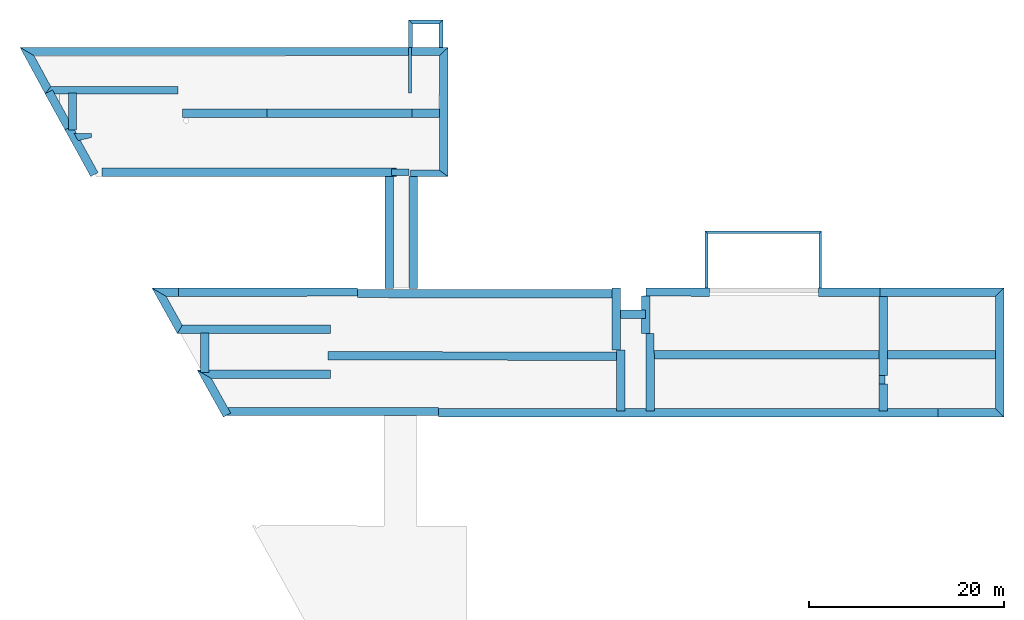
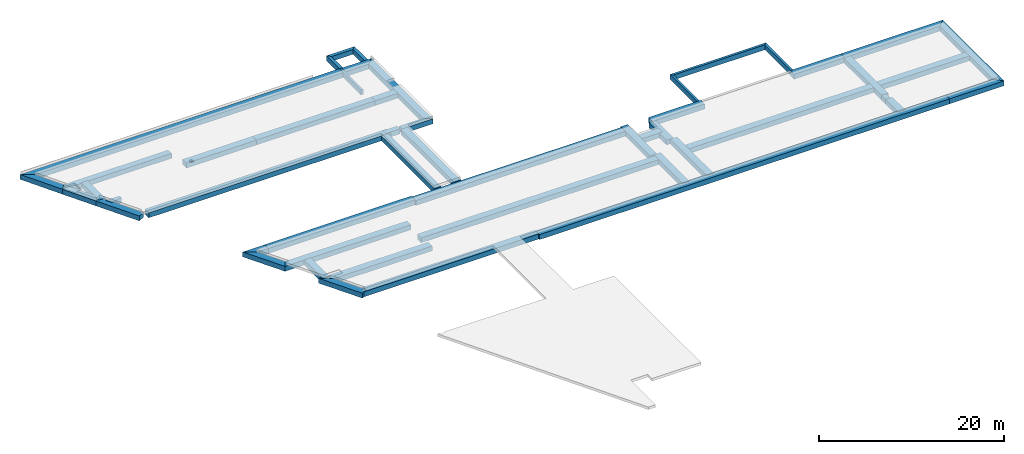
# One storey, part 1 of 3: 35 walls, 14 members, 7 openings.
"""IFC2X3 building model written with IfcOpenShell, lengths in millimetres."""

import ifcopenshell
import ifcopenshell.guid

model = None  # the IFC model being written
_history = None  # IfcOwnerHistory: only IFC2X3 demands one
_inside = {}  # id of a spatial element -> (the spatial element, [elements in it])
_under = {}  # id of a project, library or spatial element -> (it, [spatial elements below it])
_declared = {}  # id of a project -> (the project, [libraries it declares])
_typed = {}  # id of a type object -> (the type object, [elements of that type])
_made_of = {}  # id of a material, layer set ... -> (it, [elements and type objects made of it])


def new_model(schema):
    """Start an empty IFC model of exactly this schema.

    Asked for "IFC4X3", IfcOpenShell would pick the latest addendum, in which some entities
    have other attributes; the version numbers below select the first issue.
    IFC2X3 requires an IfcOwnerHistory on every rooted entity: one is made here for all.
    """
    global model, _history
    if schema == "IFC4X3":
        model = ifcopenshell.file(schema_version=(4, 3, 0, 0))
    else:
        model = ifcopenshell.file(schema=schema)
    _inside.clear()
    _under.clear()
    _declared.clear()
    _typed.clear()
    _made_of.clear()
    _history = None
    if model.schema == "IFC2X3":
        org = make("IfcOrganization", Name="unknown")
        user = make(
            "IfcPersonAndOrganization",
            ThePerson=make("IfcPerson", FamilyName="unknown"),
            TheOrganization=org,
        )
        app = make(
            "IfcApplication",
            ApplicationDeveloper=org,
            Version="unknown",
            ApplicationFullName="unknown",
            ApplicationIdentifier="unknown",
        )
        _history = make(
            "IfcOwnerHistory",
            OwningUser=user,
            OwningApplication=app,
            ChangeAction="ADDED",
            CreationDate=0,
        )
    return model


def make(cls, **values):
    """One entity of the class cls with the attributes given. An attribute that is None is left unset."""
    return model.create_entity(
        cls, **{name: value for name, value in values.items() if value is not None}
    )


def entity(cls, *values):
    """Any entity or typed value of the class cls, its attributes in the order of the schema. None: left unset."""
    e = model.create_entity(cls)
    for i, value in enumerate(values):
        if value is not None:
            e[i] = value
    return e


def rooted(cls, **values):
    """An entity with a GlobalId (a new one), such as an element, a storey or a relation."""
    return make(cls, GlobalId=ifcopenshell.guid.new(), OwnerHistory=_history, **values)


def si_unit(unit_type, name, prefix=None):
    """IfcSIUnit, for example si_unit("LENGTHUNIT", "METRE", prefix="MILLI")."""
    return make("IfcSIUnit", UnitType=unit_type, Prefix=prefix, Name=name)


def converted_unit(unit_type, name, factor, base, dimensions=None, offset=None):
    """IfcConversionBasedUnit, such as the inch: factor (a typed value) times the base unit."""
    return make(
        "IfcConversionBasedUnit"
        if offset is None
        else "IfcConversionBasedUnitWithOffset",
        ConversionOffset=offset,
        Dimensions=None
        if dimensions is None
        else entity("IfcDimensionalExponents", *dimensions),
        UnitType=unit_type,
        Name=name,
        ConversionFactor=make(
            "IfcMeasureWithUnit", ValueComponent=factor, UnitComponent=base
        ),
    )


def derived_unit(unit_type, elements):
    """IfcDerivedUnit: a product of units, each with its exponent."""
    return make(
        "IfcDerivedUnit",
        Elements=[
            make("IfcDerivedUnitElement", Unit=unit, Exponent=power)
            for unit, power in elements
        ],
        UnitType=unit_type,
    )


def money_unit(currency):
    """IfcMonetaryUnit."""
    return make("IfcMonetaryUnit", Currency=currency)


def assignment(units):
    """IfcUnitAssignment: the units of a project."""
    return None if units is None else make("IfcUnitAssignment", Units=units)


def point(xyz):
    """IfcCartesianPoint."""
    return None if xyz is None else make("IfcCartesianPoint", Coordinates=xyz)


def direction(xyz):
    """IfcDirection."""
    return None if xyz is None else make("IfcDirection", DirectionRatios=xyz)


def frame(location, z_axis=None, x_axis=None):
    """IfcAxis2Placement3D, a coordinate frame: its origin and axes. An axis left out is left unset."""
    return make(
        "IfcAxis2Placement3D",
        Location=point(location),
        Axis=direction(z_axis),
        RefDirection=direction(x_axis),
    )


def origin_with_axes():
    """The frame at (0, 0, 0) with the z axis (0, 0, 1) and the x axis (1, 0, 0) written out."""
    return frame((0.0, 0.0, 0.0), z_axis=(0.0, 0.0, 1.0), x_axis=(1.0, 0.0, 0.0))


def place(relative_to, where):
    """IfcLocalPlacement: puts the frame where relative to a parent placement (None: the world)."""
    return make(
        "IfcLocalPlacement", PlacementRelTo=relative_to, RelativePlacement=where
    )


def context(
    kind, dimensions, precision=None, world=None, true_north=None, identifier=None
):
    """IfcGeometricRepresentationContext, for example the 3D "Model" context."""
    return make(
        "IfcGeometricRepresentationContext",
        ContextIdentifier=identifier,
        ContextType=kind,
        CoordinateSpaceDimension=dimensions,
        Precision=precision,
        WorldCoordinateSystem=world,
        TrueNorth=true_north,
    )


def subcontext(parent, identifier, kind, view, scale=None):
    """IfcGeometricRepresentationSubContext, for example "Body" below "Model"."""
    return make(
        "IfcGeometricRepresentationSubContext",
        ContextIdentifier=identifier,
        ContextType=kind,
        ParentContext=parent,
        TargetScale=scale,
        TargetView=view,
    )


def project(units=None, contexts=None):
    """IfcProject with its units and contexts."""
    return rooted(
        "IfcProject",
        Name="project",
        RepresentationContexts=contexts,
        UnitsInContext=assignment(units),
    )


def spatial(cls, under=None, at=None, **own):
    """A site, building, storey or space (cls), placed at a placement, below another one or the project."""
    s = rooted(cls, ObjectPlacement=at, **own)
    if under is not None:
        _under.setdefault(under.id(), (under, []))[1].append(s)
    return s


def polyline(points):
    """IfcPolyline through the points."""
    return make("IfcPolyline", Points=[point(p) for p in points])


def outline(outer, holes=None, kind="AREA"):
    """IfcArbitraryClosedProfileDef: a profile drawn as a closed curve; with holes, ...WithVoids."""
    if holes is None:
        return make("IfcArbitraryClosedProfileDef", ProfileType=kind, OuterCurve=outer)
    return make(
        "IfcArbitraryProfileDefWithVoids",
        ProfileType=kind,
        OuterCurve=outer,
        InnerCurves=holes,
    )


def extrude(swept, where, along, depth):
    """IfcExtrudedAreaSolid: the profile swept, set in the frame where, extruded along a direction by depth."""
    return make(
        "IfcExtrudedAreaSolid",
        SweptArea=swept,
        Position=where,
        ExtrudedDirection=direction(along),
        Depth=depth,
    )


def shape(context_of_items, identifier, shape_type, items):
    """IfcShapeRepresentation: the items that make up one representation, for example the "Body"."""
    return make(
        "IfcShapeRepresentation",
        ContextOfItems=context_of_items,
        RepresentationIdentifier=identifier,
        RepresentationType=shape_type,
        Items=items,
    )


def material(Name=None, Category=None):
    """IfcMaterial."""
    return make("IfcMaterial", Name=Name, Category=Category)


def layer(
    of_material, thickness, ventilated=None, Name=None, Category=None, Priority=None
):
    """IfcMaterialLayer: one layer of a wall or slab, of a material (None: an air gap)."""
    return make(
        "IfcMaterialLayer",
        Material=of_material,
        LayerThickness=thickness,
        IsVentilated=ventilated,
        Name=Name,
        Category=Category,
        Priority=Priority,
    )


def layer_set(layers, Name=None):
    """IfcMaterialLayerSet."""
    return make("IfcMaterialLayerSet", MaterialLayers=layers, LayerSetName=Name)


def layer_usage(for_layer_set, set_direction, sense, offset, extent=None):
    """IfcMaterialLayerSetUsage: how a layer set lies in its element."""
    return make(
        "IfcMaterialLayerSetUsage",
        ForLayerSet=for_layer_set,
        LayerSetDirection=set_direction,
        DirectionSense=sense,
        OffsetFromReferenceLine=offset,
        ReferenceExtent=extent,
    )


def made_of(thing, what):
    """Note that an element or type object is made of a material, layer set ...; save() writes the relation."""
    if what is not None:
        _made_of.setdefault(what.id(), (what, []))[1].append(thing)
    return thing


def type_object(cls, material=None, **own):
    """A type object (cls), such as IfcWallType, which elements share."""
    return made_of(rooted(cls, **own), material)


def element(
    cls,
    number,
    at=None,
    inside=None,
    cuts=None,
    type_object=None,
    material=None,
    context=None,
    identifier="Body",
    shape_type=None,
    held_by="IfcProductDefinitionShape",
    body=None,
    shapes=None,
    **own,
):
    """One element of the class cls, such as IfcWall. Its Tag is "e" and its number.

    at: its placement. inside: the storey or other place that contains it. cuts: it is an
    opening in that element (IfcRelVoidsElement). A single representation is given by context,
    identifier, shape_type and body (its items); several are given by shapes. held_by: the class
    of the entity that holds the representations. save() writes the other relations.
    """
    e = rooted(cls, Tag="e%d" % number, ObjectPlacement=at, **own)
    if body is not None:
        shapes = [shape(context, identifier, shape_type, body)]
    if shapes is not None:
        e.Representation = make(held_by, Representations=shapes)
    if inside is not None:
        _inside.setdefault(inside.id(), (inside, []))[1].append(e)
    if cuts is not None:
        rooted(
            "IfcRelVoidsElement", RelatingBuildingElement=cuts, RelatedOpeningElement=e
        )
    if type_object is not None:
        _typed.setdefault(type_object.id(), (type_object, []))[1].append(e)
    return made_of(e, material)


def aggregate(whole, parts):
    """IfcRelAggregates: a whole, such as a stair, and the parts it consists of."""
    return rooted("IfcRelAggregates", RelatingObject=whole, RelatedObjects=parts)


def save(model, path):
    """Write the relations noted so far, then the file.

    IfcRelAggregates (storeys below a building ...), IfcRelContainedInSpatialStructure (elements
    in a storey), IfcRelDefinesByType, IfcRelAssociatesMaterial and IfcRelDeclares: one each for
    every whole, place, type object, material and project.
    """
    for whole, parts in _under.values():
        aggregate(whole, parts)
    for where, things in _inside.values():
        rooted(
            "IfcRelContainedInSpatialStructure",
            RelatedElements=things,
            RelatingStructure=where,
        )
    for kind, things in _typed.values():
        rooted("IfcRelDefinesByType", RelatedObjects=things, RelatingType=kind)
    for what, things in _made_of.values():
        rooted("IfcRelAssociatesMaterial", RelatedObjects=things, RelatingMaterial=what)
    for by, libraries in _declared.values():
        rooted("IfcRelDeclares", RelatingContext=by, RelatedDefinitions=libraries)
    model.write(path)


model = new_model("IFC2X3")

# Units and contexts
model_context = context("Model", 3, precision=1e-05, world=origin_with_axes(), true_north=direction((0.0, 1.0)))
body_context = subcontext(model_context, "Body", "Model", "MODEL_VIEW")
ifc_project = project(units=[si_unit("LENGTHUNIT", "METRE", prefix="MILLI"), si_unit("AREAUNIT", "SQUARE_METRE"), si_unit("VOLUMEUNIT", "CUBIC_METRE"), converted_unit("PLANEANGLEUNIT", "DEGREE", entity("IfcPlaneAngleMeasure", 0.0174532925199), si_unit("PLANEANGLEUNIT", "RADIAN"), dimensions=[0, 0, 0, 0, 0, 0, 0]), si_unit("SOLIDANGLEUNIT", "STERADIAN"), money_unit("EUR"), converted_unit("TIMEUNIT", "Year", entity("IfcTimeMeasure", 31556926.0), si_unit("TIMEUNIT", "SECOND"), dimensions=[0, 0, 1, 0, 0, 0, 0]), si_unit("MASSUNIT", "GRAM", prefix="KILO"), si_unit("THERMODYNAMICTEMPERATUREUNIT", "DEGREE_CELSIUS"), si_unit("LUMINOUSINTENSITYUNIT", "LUMEN"), si_unit("ENERGYUNIT", "JOULE", prefix="MEGA"), derived_unit("THERMALCONDUCTANCEUNIT", [(si_unit("POWERUNIT", "WATT"), 1), (si_unit("LENGTHUNIT", "METRE"), -1), (si_unit("THERMODYNAMICTEMPERATUREUNIT", "KELVIN"), -1)]), derived_unit("SPECIFICHEATCAPACITYUNIT", [(si_unit("ENERGYUNIT", "JOULE"), 1), (si_unit("MASSUNIT", "GRAM", prefix="KILO"), -1), (si_unit("THERMODYNAMICTEMPERATUREUNIT", "KELVIN"), -1)]), derived_unit("MASSDENSITYUNIT", [(si_unit("MASSUNIT", "GRAM", prefix="KILO"), 1), (si_unit("VOLUMEUNIT", "CUBIC_METRE"), -1)])], contexts=[model_context])

# Site, building, storey
site_placement = place(None, origin_with_axes())
site = spatial("IfcSite", under=ifc_project, at=site_placement, Name="Site", CompositionType="ELEMENT")
building_placement = place(site_placement, origin_with_axes())
building = spatial("IfcBuilding", under=site, at=building_placement, Name="Building", CompositionType="ELEMENT")
storey_placement = place(building_placement, frame((0.0, 0.0, -1000.0), z_axis=(0.0, 0.0, 1.0), x_axis=(1.0, 0.0, 0.0)))
storey = spatial("IfcBuildingStorey", under=building, at=storey_placement, Name="VUNDAMENT", CompositionType="ELEMENT", Elevation=-1000.0)

# Members
ifc_material_1 = material(Name="PAEKIVISEIN")
member_type_1 = type_object("IfcMemberType", Name="SW - 022", PredefinedType="NOTDEFINED")
member_1_placement = place(storey_placement, frame((4813.47055707, 63589.6245991, 0.0), z_axis=(0.0, 0.0, 1.0), x_axis=(-0.0012176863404, 0.99999925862, 0.0)))
element("IfcMember", 1, at=member_1_placement, inside=storey, type_object=member_type_1, material=ifc_material_1, Name="PAEKIVISEIN", context=body_context, shape_type="SweptSolid", body=[
    extrude(outline(polyline([(0.0, -820.0), (3792.62151022, -820.0), (3792.62151022, -1.13686837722e-10), (0.0, 0.0), (0.0, -820.0)])), origin_with_axes(), (0.0, 0.0, 1.0), 650.0),
])
ifc_material_2 = material(Name="TELLIS")
member_2_placement = place(storey_placement, frame((39976.4281033, 72042.4070113, 0.0), z_axis=(0.0, 0.0, 1.0), x_axis=(0.0, -1.0, 0.0)))
element("IfcMember", 2, at=member_2_placement, inside=storey, type_object=member_type_1, material=ifc_material_2, Name="TELLIS", context=body_context, shape_type="SweptSolid", body=[
    extrude(outline(polyline([(0.0, -300.0), (4687.56575202, -300.0), (4687.56575202, 0.0), (0.0, 0.0), (0.0, -300.0)])), origin_with_axes(), (0.0, 0.0, 1.0), 650.0),
])
member_3_placement = place(storey_placement, frame((39696.5267234, 72006.7561199, 0.0), z_axis=(0.0, 0.0, 1.0), x_axis=(0.0, 1.0, 0.0)))
element("IfcMember", 3, at=member_3_placement, inside=storey, type_object=member_type_1, material=ifc_material_1, Name="PAEKIVISEIN", context=body_context, shape_type="SweptSolid", body=[
    extrude(outline(polyline([(0.0, -400.0), (2438.78116217, -400.0), (2838.78116217, 0.0), (0.0, 0.0), (0.0, -400.0)])), origin_with_axes(), (0.0, 0.0, 1.0), 650.0),
])
member_type_2 = type_object("IfcMemberType", Name="SW - 020", PredefinedType="NOTDEFINED")
member_4_placement = place(storey_placement, frame((39716.2099151, 58932.0023004, 0.0), z_axis=(0.0, 0.0, 1.0), x_axis=(-0.999999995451, -9.53794874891e-05, 0.0)))
element("IfcMember", 4, at=member_4_placement, inside=storey, type_object=member_type_2, material=ifc_material_1, Name="PAEKIVISEIN", context=body_context, shape_type="SweptSolid", body=[
    extrude(outline(polyline([(0.0, -650.000000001), (1788.27491227, -650.000000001), (1788.27491227, 0.0), (0.0, 0.0), (0.0, -650.000000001)])), origin_with_axes(), (0.0, 0.0, 1.0), 650.0),
])
member_5_placement = place(storey_placement, frame((43713.4836764, 58799.821387, 0.0), z_axis=(0.0, 0.0, 1.0), x_axis=(-0.999999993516, -0.000113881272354, 0.0)))
element("IfcMember", 5, at=member_5_placement, inside=storey, type_object=member_type_2, material=ifc_material_1, Name="PAEKIVISEIN", context=body_context, shape_type="SweptSolid", body=[
    extrude(outline(polyline([(859.927997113, -649.999999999), (3832.6382605, -649.999999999), (3832.6382605, 0.0), (-1.13686837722e-10, 0.0), (859.927997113, -649.999999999)])), origin_with_axes(), (0.0, 0.0, 1.0), 650.0),
])
ifc_material_3 = material(Name="Kivi - Ol.Olev Konstruktsioon")
member_type_3 = type_object("IfcMemberType", Name="SW - 002", PredefinedType="NOTDEFINED")
member_6_placement = place(storey_placement, frame((70075.0330296, 47391.6574507, 0.0), z_axis=(0.0, 0.0, 1.0), x_axis=(0.0, 1.0, 0.0)))
element("IfcMember", 6, at=member_6_placement, inside=storey, type_object=member_type_3, material=ifc_material_3, Name="Kivi - Ol.Olev Konstruktsioon", context=body_context, shape_type="SweptSolid", body=[
    extrude(outline(polyline([(0.0, -300.0), (5546.67116869, -300.0), (5846.67116869, 0.0), (0.0, 0.0), (0.0, -300.0)])), origin_with_axes(), (0.0, 0.0, 1.0), 650.0),
])
member_type_4 = type_object("IfcMemberType", Name="SW - 003", PredefinedType="NOTDEFINED")
member_7_placement = place(storey_placement, frame((70075.0330296, 53238.3286194, 0.0), z_axis=(0.0, 0.0, 1.0), x_axis=(1.0, 0.0, 0.0)))
element("IfcMember", 7, at=member_7_placement, inside=storey, type_object=member_type_4, material=ifc_material_3, Name="Kivi - Ol.Olev Konstruktsioon", context=body_context, shape_type="SweptSolid", body=[
    extrude(outline(polyline([(300.0, -300.0), (11655.9249041, -300.0), (11955.9249041, 0.0), (0.0, 0.0), (300.0, -300.0)])), origin_with_axes(), (0.0, 0.0, 1.0), 650.0),
])
member_type_5 = type_object("IfcMemberType", Name="SW - 004", PredefinedType="NOTDEFINED")
member_8_placement = place(storey_placement, frame((82030.9579337, 53238.3286194, 0.0), z_axis=(0.0, 0.0, 1.0), x_axis=(0.0, -1.0, 0.0)))
element("IfcMember", 8, at=member_8_placement, inside=storey, type_object=member_type_5, material=ifc_material_3, Name="Kivi - Ol.Olev Konstruktsioon", context=body_context, shape_type="SweptSolid", body=[
    extrude(outline(polyline([(300.0, -300.0), (5873.20913514, -300.0), (5873.20913514, 0.0), (0.0, 0.0), (300.0, -300.0)])), origin_with_axes(), (0.0, 0.0, 1.0), 650.0),
])
ifc_material_4 = material(Name="Sise kivisein")
member_type_6 = type_object("IfcMemberType", Name="SW - 036", PredefinedType="NOTDEFINED")
member_9_placement = place(storey_placement, frame((87900.6227295, 38410.2729894, 0.0), z_axis=(0.0, 0.0, 1.0), x_axis=(1.33588272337e-10, -1.0, 0.0)))
element("IfcMember", 9, at=member_9_placement, inside=storey, type_object=member_type_6, material=ifc_material_4, Name="Sise kivisein", context=body_context, shape_type="SweptSolid", body=[
    extrude(outline(polyline([(0.0, 0.0), (871.448666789, 0.0), (871.448666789, 630.0), (-0.383571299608, 630.0), (0.0, 0.0)])), origin_with_axes(), (0.0, 0.0, 1.0), 650.0),
])
member_type_7 = type_object("IfcMemberType", Name="SW - 032", PredefinedType="NOTDEFINED")
member_10_placement = place(storey_placement, frame((5633.15337661, 63189.6619201, 0.0), z_axis=(0.0, 0.0, 1.0), x_axis=(0.967917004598, -0.25127011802, 0.0)))
element("IfcMember", 10, at=member_10_placement, inside=storey, type_object=member_type_7, material=ifc_material_1, Name="PAEKIVISEIN", context=body_context, shape_type="SweptSolid", body=[
    extrude(outline(polyline([(-212.40588475, -54.7768712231), (349.039553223, -648.730263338), (1580.44853705, 0.0), (1480.92809406, 381.913245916), (-212.40588475, -54.7768712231)])), origin_with_axes(), (0.0, 0.0, 1.0), 650.0),
])
member_type_8 = type_object("IfcMemberType", Name="SW - 023", PredefinedType="NOTDEFINED")
member_11_placement = place(storey_placement, frame((16040.9529694, 67276.7530065, 0.0), z_axis=(0.0, 0.0, 1.0), x_axis=(-1.0, 0.0, 0.0)))
element("IfcMember", 11, at=member_11_placement, inside=storey, type_object=member_type_8, material=ifc_material_1, Name="PAEKIVISEIN", context=body_context, shape_type="SweptSolid", body=[
    extrude(outline(polyline([(0.0, -760.0), (13031.8145782, -760.0), (13597.7858175, 0.0), (0.0, 0.0), (0.0, -760.0)])), origin_with_axes(), (0.0, 0.0, 1.0), 650.0),
])
member_12_placement = place(storey_placement, frame((39696.5267234, 74845.5372821, 0.0), z_axis=(0.0, 0.0, 1.0), x_axis=(1.0, 0.0, 0.0)))
element("IfcMember", 12, at=member_12_placement, inside=storey, type_object=member_type_8, material=ifc_material_1, Name="PAEKIVISEIN", context=body_context, shape_type="SweptSolid", body=[
    extrude(outline(polyline([(400.0, -400.0), (3093.90845653, -400.0), (3493.90845653, 0.0), (0.0, 0.0), (400.0, -400.0)])), origin_with_axes(), (0.0, 0.0, 1.0), 650.0),
])
member_type_9 = type_object("IfcMemberType", Name="SW - 024", PredefinedType="NOTDEFINED")
member_13_placement = place(storey_placement, frame((43190.4351799, 74845.5372821, 0.0), z_axis=(0.0, 0.0, 1.0), x_axis=(0.0, -1.0, 0.0)))
element("IfcMember", 13, at=member_13_placement, inside=storey, type_object=member_type_9, material=ifc_material_1, Name="PAEKIVISEIN", context=body_context, shape_type="SweptSolid", body=[
    extrude(outline(polyline([(400.0, -400.0), (2838.78116217, -400.0), (2838.78116217, 0.0), (0.0, 0.0), (400.0, -400.0)])), origin_with_axes(), (0.0, 0.0, 1.0), 650.0),
])
member_type_10 = type_object("IfcMemberType", Name="SW - 018", PredefinedType="NOTDEFINED")
member_14_placement = place(storey_placement, frame((39676.4281034, 72006.7561199, 0.0), z_axis=(0.0, 0.0, 1.0), x_axis=(1.0, 0.0, 0.0)))
element("IfcMember", 14, at=member_14_placement, inside=storey, type_object=member_type_10, material=ifc_material_1, Name="PAEKIVISEIN", context=body_context, shape_type="SweptSolid", body=[
    extrude(outline(polyline([(0.0, -820.0), (3177.01717988, -820.0), (4037.01463831, 0.0), (0.0, 0.0), (0.0, -820.0)])), origin_with_axes(), (0.0, 0.0, 1.0), 650.0),
])

# Walls
ifc_layer = layer(ifc_material_3, 860.0, ventilated="UNKNOWN")
ifc_layer_set = layer_set([ifc_layer], Name="VUND")
ifc_layer_usage_1 = layer_usage(ifc_layer_set, "AXIS2", "POSITIVE", 0.0)
wall_type = type_object("IfcWallType", Name="P-1", PredefinedType="NOTDEFINED")
wall_1_placement = place(storey_placement, frame((-143.970678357, 72042.4070113, 0.0), z_axis=(0.0, 0.0, 1.0), x_axis=(0.477101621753, -0.878848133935, 0.0)))
element("IfcWallStandardCase", 15, at=wall_1_placement, inside=storey, type_object=wall_type, material=ifc_layer_usage_1, Name="VUND", context=body_context, shape_type="SweptSolid", body=[
    extrude(outline(polyline([(0.0, 4.54747350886e-10), (5422.61378367, 0.0), (5024.71499799, 860.0), (1445.4231006, 860.0), (0.0, 4.54747350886e-10)])), origin_with_axes(), (0.0, 0.0, 1.0), 650.0),
])
ifc_layer_usage_2 = layer_usage(ifc_layer_set, "AXIS2", "POSITIVE", 0.0)
wall_2_placement = place(storey_placement, frame((64004.5791864, 42706.5090686, 0.0), z_axis=(0.0, 0.0, 1.0), x_axis=(0.00121053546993, -0.999999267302, 0.0)))
element("IfcWallStandardCase", 16, at=wall_2_placement, inside=storey, type_object=wall_type, material=ifc_layer_usage_2, Name="VUND", context=body_context, shape_type="SweptSolid", body=[
    extrude(outline(polyline([(0.0, 0.0), (7922.92482657, 0.0), (7922.92482657, 860.0), (0.0, 860.0), (0.0, 0.0)])), origin_with_axes(), (0.0, 0.0, 1.0), 650.0),
])
ifc_layer_usage_3 = layer_usage(ifc_layer_set, "AXIS2", "POSITIVE", -860.0)
wall_3_placement = place(storey_placement, frame((13391.0415629, 47364.6085951, 0.0), z_axis=(0.0, 0.0, 1.0), x_axis=(0.999999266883, 0.00121088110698, 0.0)))
element("IfcWallStandardCase", 17, at=wall_3_placement, inside=storey, type_object=wall_type, material=ifc_layer_usage_3, Name="VUND", context=body_context, shape_type="SweptSolid", body=[
    extrude(outline(polyline([(1460.54805582, -859.999999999), (2709.58480993, -859.999999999), (2709.39300747, 9.09494701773e-10), (-1.02318153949e-09, 0.0), (1460.54805582, -859.999999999)])), origin_with_axes(), (0.0, 0.0, 1.0), 650.0),
])
ifc_layer_usage_4 = layer_usage(ifc_layer_set, "AXIS2", "POSITIVE", -860.0)
wall_4_placement = place(storey_placement, frame((43713.4427417, 72006.7561199, 0.0), z_axis=(0.0, 0.0, 1.0), x_axis=(3.09948180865e-06, -0.999999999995, 0.0)))
element("IfcWallStandardCase", 18, at=wall_4_placement, inside=storey, type_object=wall_type, material=ifc_layer_usage_4, Name="VUND", context=body_context, shape_type="SweptSolid", body=[
    extrude(outline(polyline([(819.997334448, -860.0), (12557.0300013, -860.0), (13206.9347329, 0.0), (0.0, 0.0), (819.997334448, -860.0)])), origin_with_axes(), (0.0, 0.0, 1.0), 650.0),
])

# Wall, opening
ifc_layer_usage_5 = layer_usage(ifc_layer_set, "AXIS2", "NEGATIVE", 0.0)
wall_5_placement = place(storey_placement, frame((-143.970678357, 72042.4070113, 0.0), z_axis=(0.0, 0.0, 1.0), x_axis=(1.0, 0.0, 0.0)))
wall_5 = element("IfcWallStandardCase", 19, at=wall_5_placement, inside=storey, type_object=wall_type, material=ifc_layer_usage_5, Name="VUND", context=body_context, shape_type="SweptSolid", body=[
    extrude(outline(polyline([(1445.4231006, -860.0), (39840.4974018, -860.0), (39840.4974018, 0.0), (6.8212102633e-10, 0.0), (1445.4231006, -860.0)])), origin_with_axes(), (0.0, 0.0, 1.0), 650.0),
])
opening_1_placement = place(wall_5_placement, frame((16780.9492833, 0.0, 1200.0), z_axis=(0.0, 0.0, 1.0), x_axis=(1.0, 0.0, 0.0)))
element("IfcOpeningElement", 20, at=opening_1_placement, cuts=wall_5, Name="Background;  Objekti nimi: Wall Niche Rectangular 22", ObjectType="Recess", context=body_context, shape_type="SweptSolid", body=[
    extrude(outline(polyline([(-12222.524032, 0.0), (12222.524032, 0.0), (12222.524032, 1050.0), (-12222.524032, 1050.0), (-12222.524032, 0.0)])), frame((0.0, -160.0, 0.0), z_axis=(0.0, -1.0, 0.0), x_axis=(1.0, 0.0, 0.0)), (0.0, 0.0, -1.0), 1020.0),
])

ifc_layer_usage_6 = layer_usage(ifc_layer_set, "AXIS2", "POSITIVE", -860.0)
wall_6_placement = place(storey_placement, frame((34427.1949096, 47236.7843096, 0.0), z_axis=(0.0, 0.0, 1.0), x_axis=(0.999999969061, -0.000248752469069, 0.0)))
wall_6 = element("IfcWallStandardCase", 21, at=wall_6_placement, inside=storey, type_object=wall_type, material=ifc_layer_usage_6, Name="VUND", context=body_context, shape_type="SweptSolid", body=[
    extrude(outline(polyline([(0.0, -860.0), (26975.9333424, -860.0), (26975.9333424, 9.09494701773e-10), (0.0, 0.0), (0.0, -860.0)])), origin_with_axes(), (0.0, 0.0, 1.0), 650.0),
])
opening_2_placement = place(wall_6_placement, frame((18008.6436185, 0.0, 1200.0), z_axis=(0.0, 0.0, 1.0), x_axis=(1.0, 0.0, 0.0)))
element("IfcOpeningElement", 22, at=opening_2_placement, cuts=wall_6, Name="Background;  Objekti nimi: Wall Niche Rectangular 22", ObjectType="Recess", context=body_context, shape_type="SweptSolid", body=[
    extrude(outline(polyline([(-8987.23831655, 0.0), (8987.23831655, 0.0), (8987.23831655, 1050.0), (-8987.23831655, 1050.0), (-8987.23831655, 0.0)])), frame((1.13686837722e-10, -159.999999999, 0.0), z_axis=(0.0, 1.0, 0.0), x_axis=(-1.0, 0.0, 0.0)), (0.0, 0.0, 1.0), 1020.0),
])

# Walls
ifc_layer_usage_7 = layer_usage(ifc_layer_set, "AXIS2", "POSITIVE", -860.0)
wall_7_placement = place(storey_placement, frame((39730.1923416, 47316.4750459, 0.0), z_axis=(0.0, 0.0, 1.0), x_axis=(-0.00121768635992, 0.99999925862, 0.0)))
element("IfcWallStandardCase", 23, at=wall_7_placement, inside=storey, type_object=wall_type, material=ifc_layer_usage_7, Name="VUND", context=body_context, shape_type="SweptSolid", body=[
    extrude(outline(polyline([(0.0, -860.0), (11482.7815698, -860.0), (11482.7815698, 0.0), (0.0, 0.0), (0.0, -860.0)])), origin_with_axes(), (0.0, 0.0, 1.0), 650.0),
])
ifc_layer_usage_8 = layer_usage(ifc_layer_set, "AXIS2", "POSITIVE", -860.0)
wall_8_placement = place(storey_placement, frame((37283.9031286, 47316.187643, 0.0), z_axis=(0.0, 0.0, 1.0), x_axis=(0.000351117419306, 0.999999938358, 0.0)))
element("IfcWallStandardCase", 24, at=wall_8_placement, inside=storey, type_object=wall_type, material=ifc_layer_usage_8, Name="VUND", context=body_context, shape_type="SweptSolid", body=[
    extrude(outline(polyline([(9.09494701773e-10, -860.0), (11482.8670882, -860.0), (11482.8670882, 0.0), (0.0, 0.0), (9.09494701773e-10, -860.0)])), origin_with_axes(), (0.0, 0.0, 1.0), 650.0),
])
ifc_layer_usage_9 = layer_usage(ifc_layer_set, "AXIS2", "POSITIVE", -860.0)
wall_9_placement = place(storey_placement, frame((15984.451376, 42702.9726175, 0.0), z_axis=(0.0, 0.0, 1.0), x_axis=(-0.486160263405, 0.873869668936, 0.0)))
element("IfcWallStandardCase", 25, at=wall_9_placement, inside=storey, type_object=wall_type, material=ifc_layer_usage_9, Name="VUND", context=body_context, shape_type="SweptSolid", body=[
    extrude(outline(polyline([(505.688784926, -860.0), (3873.92703057, -860.0), (5334.47508638, 0.0), (9.09494701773e-10, -4.54747350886e-10), (505.688784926, -860.0)])), origin_with_axes(), (0.0, 0.0, 1.0), 650.0),
])
ifc_layer_usage_10 = layer_usage(ifc_layer_set, "AXIS2", "POSITIVE", -860.0)
wall_10_placement = place(storey_placement, frame((7102.59614544, 58795.6520929, 0.0), z_axis=(0.0, 0.0, 1.0), x_axis=(-0.482299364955, 0.876006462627, 0.0)))
element("IfcWallStandardCase", 26, at=wall_10_placement, inside=storey, type_object=wall_type, material=ifc_layer_usage_10, Name="VUND", context=body_context, shape_type="SweptSolid", body=[
    extrude(outline(polyline([(0.0, -860.0), (5473.67081563, -860.0), (5473.67081563, 0.0), (0.0, 0.0), (0.0, -860.0)])), origin_with_axes(), (0.0, 0.0, 1.0), 650.0),
])
ifc_layer_usage_11 = layer_usage(ifc_layer_set, "AXIS2", "POSITIVE", -860.0)
wall_11_placement = place(storey_placement, frame((31702.8594605, 38105.516274, 0.0), z_axis=(0.0, 0.0, 1.0), x_axis=(-0.999999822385, -0.00059601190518, 0.0)))
element("IfcWallStandardCase", 27, at=wall_11_placement, inside=storey, type_object=wall_type, material=ifc_layer_usage_11, Name="VUND", context=body_context, shape_type="SweptSolid", body=[
    extrude(outline(polyline([(0.0, -859.999999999), (13684.6607056, -860.0), (12221.7820635, 0.0), (0.0, 0.0), (0.0, -859.999999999)])), origin_with_axes(), (0.0, 0.0, 1.0), 650.0),
])
ifc_layer_usage_12 = layer_usage(ifc_layer_set, "AXIS2", "POSITIVE", -860.0)
wall_12_placement = place(storey_placement, frame((20702.7052361, 34139.8968366, 0.0), z_axis=(0.0, 0.0, 1.0), x_axis=(-0.486840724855, 0.873490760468, 0.0)))
element("IfcWallStandardCase", 28, at=wall_12_placement, inside=storey, type_object=wall_type, material=ifc_layer_usage_12, Name="VUND", context=body_context, shape_type="SweptSolid", body=[
    extrude(outline(polyline([(-9.09494701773e-10, -860.0), (4052.30627112, -860.0), (5515.18491319, 0.0), (0.0, 0.0), (-9.09494701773e-10, -860.0)])), origin_with_axes(), (0.0, 0.0, 1.0), 650.0),
])

# Wall, opening
ifc_layer_usage_13 = layer_usage(ifc_layer_set, "AXIS2", "POSITIVE", -860.0)
wall_13_placement = place(storey_placement, frame((93945.157733, 34146.1402709, 0.0), z_axis=(0.0, 0.0, 1.0), x_axis=(-0.999999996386, -8.50179163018e-05, 0.0)))
wall_13 = element("IfcWallStandardCase", 29, at=wall_13_placement, inside=storey, type_object=wall_type, material=ifc_layer_usage_13, Name="VUND", context=body_context, shape_type="SweptSolid", body=[
    extrude(outline(polyline([(0.0, -860.000000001), (51187.1572798, -860.000000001), (51187.1572798, 0.0), (0.0, 0.0), (0.0, -860.000000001)])), origin_with_axes(), (0.0, 0.0, 1.0), 650.0),
])
opening_3_placement = place(wall_13_placement, frame((41662.5145007, 0.0, 1200.0), z_axis=(0.0, 0.0, 1.0), x_axis=(1.0, 0.0, 0.0)))
element("IfcOpeningElement", 30, at=opening_3_placement, cuts=wall_13, Name="Background;  Objekti nimi: Wall Niche Rectangular 22", ObjectType="Recess", context=body_context, shape_type="SweptSolid", body=[
    extrude(outline(polyline([(-8905.0, 0.0), (8905.0, 0.0), (8905.0, 1050.0), (-8905.0, 1050.0), (-8905.0, 0.0)])), frame((0.0, -200.0, 0.0), z_axis=(0.0, -1.0, 0.0), x_axis=(1.0, 0.0, 0.0)), (0.0, 0.0, -1.0), 1060.0),
])

# Wall
ifc_layer_usage_14 = layer_usage(ifc_layer_set, "AXIS2", "POSITIVE", -860.0)
wall_14_placement = place(storey_placement, frame((42758.0006382, 34289.9321853, 0.0), z_axis=(0.0, 0.0, 1.0), x_axis=(-0.999999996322, -8.57667241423e-05, 0.0)))
element("IfcWallStandardCase", 31, at=wall_14_placement, inside=storey, type_object=wall_type, material=ifc_layer_usage_14, Name="VUND", context=body_context, shape_type="SweptSolid", body=[
    extrude(outline(polyline([(1.13686837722e-10, -860.000000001), (22055.2765021, -860.000000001), (22055.2765021, 0.0), (0.0, 0.0), (1.13686837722e-10, -860.000000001)])), origin_with_axes(), (0.0, 0.0, 1.0), 650.0),
])

# Wall, opening
ifc_layer_usage_15 = layer_usage(ifc_layer_set, "AXIS2", "POSITIVE", -860.0)
wall_15_placement = place(storey_placement, frame((87889.6909058, 47387.8029147, 0.0), z_axis=(0.0, 0.0, 1.0), x_axis=(0.999999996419, -8.46287450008e-05, 0.0)))
wall_15 = element("IfcWallStandardCase", 32, at=wall_15_placement, inside=storey, type_object=wall_type, material=ifc_layer_usage_15, Name="VUND", context=body_context, shape_type="SweptSolid", body=[
    extrude(outline(polyline([(0.0, -860.0), (11965.967584, -860.0), (12825.8215059, 0.0), (0.0, 0.0), (0.0, -860.0)])), origin_with_axes(), (0.0, 0.0, 1.0), 650.0),
])
opening_4_placement = place(wall_15_placement, frame((4929.47220616, 0.0, 1200.0), z_axis=(0.0, 0.0, 1.0), x_axis=(1.0, 0.0, 0.0)))
element("IfcOpeningElement", 33, at=opening_4_placement, cuts=wall_15, Name="Background;  Objekti nimi: Wall Niche Rectangular 22", ObjectType="Recess", context=body_context, shape_type="SweptSolid", body=[
    extrude(outline(polyline([(-4608.46179615, 0.0), (4608.46179615, 0.0), (4608.46179615, 1050.0), (-4608.46179615, 1050.0), (-4608.46179615, 0.0)])), frame((0.0, -160.0, 0.0), z_axis=(0.0, 1.0, 0.0), x_axis=(-1.0, 0.0, 0.0)), (0.0, 0.0, 1.0), 1020.0),
])

ifc_layer_usage_16 = layer_usage(ifc_layer_set, "AXIS2", "POSITIVE", -860.0)
wall_16_placement = place(storey_placement, frame((16100.432584, 47367.889348, 0.0), z_axis=(0.0, 0.0, 1.0), x_axis=(0.999998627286, 0.00165693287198, 0.0)))
wall_16 = element("IfcWallStandardCase", 34, at=wall_16_placement, inside=storey, type_object=wall_type, material=ifc_layer_usage_16, Name="VUND", context=body_context, shape_type="SweptSolid", body=[
    extrude(outline(polyline([(-0.19180246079, -860.000000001), (18326.768502, -860.0), (18326.768502, -9.09494701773e-10), (0.0, 0.0), (-0.19180246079, -860.000000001)])), origin_with_axes(), (0.0, 0.0, 1.0), 650.0),
])
opening_5_placement = place(wall_16_placement, frame((9219.97236847, 0.0, 1200.0), z_axis=(0.0, 0.0, 1.0), x_axis=(1.0, 0.0, 0.0)))
element("IfcOpeningElement", 35, at=opening_5_placement, cuts=wall_16, Name="Background;  Objekti nimi: Wall Niche Rectangular 22", ObjectType="Recess", context=body_context, shape_type="SweptSolid", body=[
    extrude(outline(polyline([(-8905.0, 0.0), (8905.0, 0.0), (8905.0, 1050.0), (-8905.0, 1050.0), (-8905.0, 0.0)])), frame((0.0, -200.0, 0.0), z_axis=(0.0, 1.0, 0.0), x_axis=(-1.0, 0.0, 0.0)), (0.0, 0.0, 1.0), 1060.0),
])

# Walls
ifc_layer_usage_17 = layer_usage(ifc_layer_set, "AXIS2", "POSITIVE", -860.0)
wall_17_placement = place(storey_placement, frame((81677.799778, 47388.3286193, 0.0), z_axis=(0.0, 0.0, 1.0), x_axis=(0.999999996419, -8.4628751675e-05, 0.0)))
element("IfcWallStandardCase", 36, at=wall_17_placement, inside=storey, type_object=wall_type, material=ifc_layer_usage_17, Name="VUND", context=body_context, shape_type="SweptSolid", body=[
    extrude(outline(polyline([(0.0, -860.0), (6342.91421018, -860.0), (6342.91421018, 0.0), (0.0, 0.0), (0.0, -860.0)])), origin_with_axes(), (0.0, 0.0, 1.0), 650.0),
])
ifc_layer_usage_18 = layer_usage(ifc_layer_set, "AXIS2", "POSITIVE", -860.0)
wall_18_placement = place(storey_placement, frame((18374.9528433, 38706.3815356, 0.0), z_axis=(0.0, 0.0, 1.0), x_axis=(-0.00121768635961, 0.99999925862, 0.0)))
element("IfcWallStandardCase", 37, at=wall_18_placement, inside=storey, type_object=wall_type, material=ifc_layer_usage_18, Name="VUND", context=body_context, shape_type="SweptSolid", body=[
    extrude(outline(polyline([(9.09494701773e-10, -860.0), (4057.04656254, -860.0), (4057.04656254, -1.13686837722e-10), (0.0, 0.0), (9.09494701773e-10, -860.0)])), origin_with_axes(), (0.0, 0.0, 1.0), 650.0),
])

# Wall, opening
ifc_layer_usage_19 = layer_usage(ifc_layer_set, "AXIS2", "POSITIVE", -860.0)
wall_19_placement = place(storey_placement, frame((100716.640994, 34146.7175311, 0.0), z_axis=(0.0, 0.0, 1.0), x_axis=(-0.99999990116, -0.000444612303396, 0.0)))
wall_19 = element("IfcWallStandardCase", 38, at=wall_19_placement, inside=storey, type_object=wall_type, material=ifc_layer_usage_19, Name="VUND", context=body_context, shape_type="SweptSolid", body=[
    extrude(outline(polyline([(859.690998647, -859.999999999), (6771.27660671, -860.0), (6771.27660671, 0.0), (0.0, 0.0), (859.690998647, -859.999999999)])), origin_with_axes(), (0.0, 0.0, 1.0), 650.0),
])
opening_6_placement = place(wall_19_placement, frame((3545.76264888, 9.09494701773e-10, 1200.0), z_axis=(0.0, 0.0, 1.0), x_axis=(1.0, 0.0, 0.0)))
element("IfcOpeningElement", 39, at=opening_6_placement, cuts=wall_19, Name="Background;  Objekti nimi: Wall Niche Rectangular 22", ObjectType="Recess", context=body_context, shape_type="SweptSolid", body=[
    extrude(outline(polyline([(-2780.47221002, 0.0), (2780.47221002, 0.0), (2780.47221002, 1050.0), (-2780.47221002, 1050.0), (-2780.47221002, 0.0)])), frame((0.0, -200.000000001, 0.0), z_axis=(0.0, -1.0, 0.0), x_axis=(1.0, 0.0, 0.0)), (0.0, 0.0, -1.0), 1060.0),
])

# Walls
ifc_layer_usage_20 = layer_usage(ifc_layer_set, "AXIS2", "POSITIVE", 0.0)
wall_20_placement = place(storey_placement, frame((64429.5981769, 42706.5090686, 0.0), z_axis=(0.0, 0.0, 1.0), x_axis=(0.0, 1.0, 0.0)))
element("IfcWallStandardCase", 40, at=wall_20_placement, inside=storey, type_object=wall_type, material=ifc_layer_usage_20, Name="VUND", context=body_context, shape_type="SweptSolid", body=[
    extrude(outline(polyline([(0.0, 0.0), (3824.28330561, 0.0), (3824.4972327, 860.0), (0.0, 860.0), (0.0, 0.0)])), origin_with_axes(), (0.0, 0.0, 1.0), 650.0),
])
ifc_layer_usage_21 = layer_usage(ifc_layer_set, "AXIS2", "POSITIVE", 0.0)
wall_21_placement = place(storey_placement, frame((61398.8667193, 44268.7830641, 0.0), z_axis=(0.0, 0.0, 1.0), x_axis=(0.99999925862, 0.00121768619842, 0.0)))
element("IfcWallStandardCase", 41, at=wall_21_placement, inside=storey, type_object=wall_type, material=ifc_layer_usage_21, Name="VUND", context=body_context, shape_type="SweptSolid", body=[
    extrude(outline(polyline([(0.0, 0.0), (2570.73336356, 9.09494701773e-10), (2570.73336356, 860.000000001), (0.0, 860.000000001), (0.0, 0.0)])), origin_with_axes(), (0.0, 0.0, 1.0), 650.0),
])
ifc_layer_usage_22 = layer_usage(ifc_layer_set, "AXIS2", "POSITIVE", 0.0)
wall_22_placement = place(storey_placement, frame((87889.6909058, 47387.8029147, 0.0), z_axis=(0.0, 0.0, 1.0), x_axis=(0.00121768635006, -0.99999925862, 0.0)))
element("IfcWallStandardCase", 42, at=wall_22_placement, inside=storey, type_object=wall_type, material=ifc_layer_usage_22, Name="VUND", context=body_context, shape_type="SweptSolid", body=[
    extrude(outline(polyline([(860.0007293, 0.0), (8977.53658106, 0.0), (8978.06018633, 860.0), (861.120721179, 860.0), (860.0007293, 0.0)])), origin_with_axes(), (0.0, 0.0, 1.0), 650.0),
])
ifc_layer_usage_23 = layer_usage(ifc_layer_set, "AXIS2", "POSITIVE", 0.0)
wall_23_placement = place(storey_placement, frame((87901.6838807, 37538.8249685, 0.0), z_axis=(0.0, 0.0, 1.0), x_axis=(0.0012176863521, -0.99999925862, 0.0)))
element("IfcWallStandardCase", 43, at=wall_23_placement, inside=storey, type_object=wall_type, material=ifc_layer_usage_23, Name="VUND", context=body_context, shape_type="SweptSolid", body=[
    extrude(outline(polyline([(0.0, 0.0), (2753.20025504, 1.13686837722e-10), (2753.20025504, 860.0), (-9.09494701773e-10, 860.0), (0.0, 0.0)])), origin_with_axes(), (0.0, 0.0, 1.0), 650.0),
])
ifc_layer_usage_24 = layer_usage(ifc_layer_set, "AXIS2", "POSITIVE", 0.0)
wall_24_placement = place(storey_placement, frame((100076.061581, 40943.8211243, 0.0), z_axis=(0.0, 0.0, 1.0), x_axis=(-1.0, 0.0, 0.0)))
element("IfcWallStandardCase", 44, at=wall_24_placement, inside=storey, type_object=wall_type, material=ifc_layer_usage_24, Name="VUND", context=body_context, shape_type="SweptSolid", body=[
    extrude(outline(polyline([(0.0, 0.0), (35609.3923068, 0.0), (35609.3923068, 860.0), (0.0, 860.0), (0.0, 0.0)])), origin_with_axes(), (0.0, 0.0, 1.0), 650.0),
])
ifc_layer_usage_25 = layer_usage(ifc_layer_set, "AXIS2", "POSITIVE", 0.0)
wall_25_placement = place(storey_placement, frame((61408.6496694, 41021.0167179, 0.0), z_axis=(0.0, 0.0, 1.0), x_axis=(-0.000866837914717, 0.999999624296, 0.0)))
element("IfcWallStandardCase", 45, at=wall_25_placement, inside=storey, type_object=wall_type, material=ifc_layer_usage_25, Name="VUND", context=body_context, shape_type="SweptSolid", body=[
    extrude(outline(polyline([(0.0, 0.0), (6370.43312694, -1.13686837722e-10), (6370.43312694, 860.0), (9.09494701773e-10, 860.0), (0.0, 0.0)])), origin_with_axes(), (0.0, 0.0, 1.0), 650.0),
])

# Wall, opening
ifc_layer_usage_26 = layer_usage(ifc_layer_set, "AXIS2", "POSITIVE", 0.0)
wall_26_placement = place(storey_placement, frame((8274.62567848, 58795.6520929, 0.0), z_axis=(0.0, 0.0, 1.0), x_axis=(0.999999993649, 0.000112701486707, 0.0)))
wall_26 = element("IfcWallStandardCase", 46, at=wall_26_placement, inside=storey, type_object=wall_type, material=ifc_layer_usage_26, Name="VUND", context=body_context, shape_type="SweptSolid", body=[
    extrude(outline(polyline([(0.0, 0.0), (30185.3200285, 0.0), (30185.3200285, 860.0), (0.0, 860.000000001), (0.0, 0.0)])), origin_with_axes(), (0.0, 0.0, 1.0), 650.0),
])
opening_7_placement = place(wall_26_placement, frame((19558.271053, 0.0, 1200.0), z_axis=(0.0, 0.0, 1.0), x_axis=(1.0, 0.0, 0.0)))
element("IfcOpeningElement", 47, at=opening_7_placement, cuts=wall_26, Name="Background;  Objekti nimi: Wall Niche Rectangular 22", ObjectType="Recess", context=body_context, shape_type="SweptSolid", body=[
    extrude(outline(polyline([(-10275.8216101, 0.0), (10275.8216101, 0.0), (10275.8216101, 1050.0), (-10275.8216101, 1050.0), (-10275.8216101, 0.0)])), frame((0.0, 160.0, 0.0), z_axis=(0.0, 1.0, 0.0), x_axis=(-1.0, 0.0, 0.0)), (0.0, 0.0, -1.0), 1020.0),
])

# Walls
ifc_layer_usage_27 = layer_usage(ifc_layer_set, "AXIS2", "POSITIVE", 0.0)
wall_27_placement = place(storey_placement, frame((43713.462216, 65723.6815412, 0.0), z_axis=(0.0, 0.0, 1.0), x_axis=(-1.0, 0.0, 0.0)))
element("IfcWallStandardCase", 48, at=wall_27_placement, inside=storey, type_object=wall_type, material=ifc_layer_usage_27, Name="VUND", context=body_context, shape_type="SweptSolid", body=[
    extrude(outline(polyline([(860.000000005, 0.0), (3700.57171673, 0.0), (3700.57171673, 860.0), (859.997334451, 860.0), (860.000000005, 0.0)])), origin_with_axes(), (0.0, 0.0, 1.0), 650.0),
])
ifc_layer_usage_28 = layer_usage(ifc_layer_set, "AXIS2", "POSITIVE", 0.0)
wall_28_placement = place(storey_placement, frame((60996.4079051, 41021.7307168, 0.0), z_axis=(0.0, 0.0, 1.0), x_axis=(0.0, -1.0, 0.0)))
element("IfcWallStandardCase", 49, at=wall_28_placement, inside=storey, type_object=wall_type, material=ifc_layer_usage_28, Name="VUND", context=body_context, shape_type="SweptSolid", body=[
    extrude(outline(polyline([(0.0, 0.0), (6238.39167738, 0.0), (6238.39167738, 860.0), (0.0, 860.0), (0.0, 0.0)])), origin_with_axes(), (0.0, 0.0, 1.0), 650.0),
])
ifc_layer_usage_29 = layer_usage(ifc_layer_set, "AXIS2", "POSITIVE", 0.0)
wall_29_placement = place(storey_placement, frame((40012.8904993, 65723.6815412, 0.0), z_axis=(0.0, 0.0, 1.0), x_axis=(-1.0, 0.0, 0.0)))
element("IfcWallStandardCase", 50, at=wall_29_placement, inside=storey, type_object=wall_type, material=ifc_layer_usage_29, Name="VUND", context=body_context, shape_type="SweptSolid", body=[
    extrude(outline(polyline([(0.0, 0.0), (14814.1182163, 0.0), (14814.1182163, 860.0), (0.0, 860.0), (0.0, 0.0)])), origin_with_axes(), (0.0, 0.0, 1.0), 650.0),
])
ifc_layer_usage_30 = layer_usage(ifc_layer_set, "AXIS2", "POSITIVE", 0.0)
wall_30_placement = place(storey_placement, frame((25198.7712655, 65723.6815412, 0.0), z_axis=(0.0, 0.0, 1.0), x_axis=(-1.0, 0.0, 0.0)))
element("IfcWallStandardCase", 51, at=wall_30_placement, inside=storey, type_object=wall_type, material=ifc_layer_usage_30, Name="VUND", context=body_context, shape_type="SweptSolid", body=[
    extrude(outline(polyline([(0.0, 0.0), (8703.26666359, 0.0), (8703.26666359, 860.0), (0.0, 860.0), (0.0, 0.0)])), origin_with_axes(), (0.0, 0.0, 1.0), 650.0),
])
ifc_layer_usage_31 = layer_usage(ifc_layer_set, "AXIS2", "POSITIVE", 0.0)
wall_31_placement = place(storey_placement, frame((61408.7198629, 40810.1377622, 0.0), z_axis=(0.0, 0.0, 1.0), x_axis=(-0.999998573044, 0.0016893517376, 0.0)))
element("IfcWallStandardCase", 52, at=wall_31_placement, inside=storey, type_object=wall_type, material=ifc_layer_usage_31, Name="VUND", context=body_context, shape_type="SweptSolid", body=[
    extrude(outline(polyline([(0.0, 0.0), (29988.1362502, 0.0), (29988.1362502, 860.000000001), (0.0, 860.000000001), (0.0, 0.0)])), origin_with_axes(), (0.0, 0.0, 1.0), 650.0),
])
ifc_layer_usage_32 = layer_usage(ifc_layer_set, "AXIS2", "POSITIVE", -860.0)
wall_32_placement = place(storey_placement, frame((100715.512366, 47386.7174815, 0.0), z_axis=(0.0, 0.0, 1.0), x_axis=(8.52438620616e-05, -0.999999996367, 0.0)))
element("IfcWallStandardCase", 53, at=wall_32_placement, inside=storey, type_object=wall_type, material=ifc_layer_usage_32, Name="VUND", context=body_context, shape_type="SweptSolid", body=[
    extrude(outline(polyline([(859.853921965, -860.0), (12380.3089999, -860.0), (13239.9999985, 0.0), (0.0, 0.0), (859.853921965, -860.0)])), origin_with_axes(), (0.0, 0.0, 1.0), 650.0),
])
ifc_layer_usage_33 = layer_usage(ifc_layer_set, "AXIS2", "POSITIVE", -860.0)
wall_33_placement = place(storey_placement, frame((31702.4064915, 42703.094386, 0.0), z_axis=(0.0, 0.0, 1.0), x_axis=(-0.99999999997, -7.74709961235e-06, 0.0)))
element("IfcWallStandardCase", 54, at=wall_33_placement, inside=storey, type_object=wall_type, material=ifc_layer_usage_33, Name="VUND", context=body_context, shape_type="SweptSolid", body=[
    extrude(outline(polyline([(0.0, -860.000000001), (15212.266331, -860.000000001), (15717.955116, 0.0), (0.0, 0.0), (0.0, -860.000000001)])), origin_with_axes(), (0.0, 0.0, 1.0), 650.0),
])
ifc_layer_usage_34 = layer_usage(ifc_layer_set, "AXIS2", "POSITIVE", -860.0)
wall_34_placement = place(storey_placement, frame((64003.5536957, 47390.8983804, 0.0), z_axis=(0.0, 0.0, 1.0), x_axis=(0.999999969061, -0.000248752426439, 0.0)))
element("IfcWallStandardCase", 55, at=wall_34_placement, inside=storey, type_object=wall_type, material=ifc_layer_usage_34, Name="VUND", context=body_context, shape_type="SweptSolid", body=[
    extrude(outline(polyline([(0.0, -860.000000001), (6544.2210237, -860.000000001), (6544.2210237, -9.09494701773e-10), (0.0, 0.0), (0.0, -860.000000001)])), origin_with_axes(), (0.0, 0.0, 1.0), 650.0),
])
ifc_layer_usage_35 = layer_usage(ifc_layer_set, "AXIS2", "POSITIVE", -860.0)
wall_35_placement = place(storey_placement, frame((4462.64818709, 63590.6231017, 0.0), z_axis=(0.0, 0.0, 1.0), x_axis=(-0.482299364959, 0.876006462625, 0.0)))
element("IfcWallStandardCase", 56, at=wall_35_placement, inside=storey, type_object=wall_type, material=ifc_layer_usage_35, Name="VUND", context=body_context, shape_type="SweptSolid", body=[
    extrude(outline(polyline([(0.0, -860.0), (4207.87980693, -860.0), (4207.87980693, 0.0), (2.72848410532e-09, 0.0), (0.0, -860.0)])), origin_with_axes(), (0.0, 0.0, 1.0), 650.0),
])

save(model, "model.ifc")
